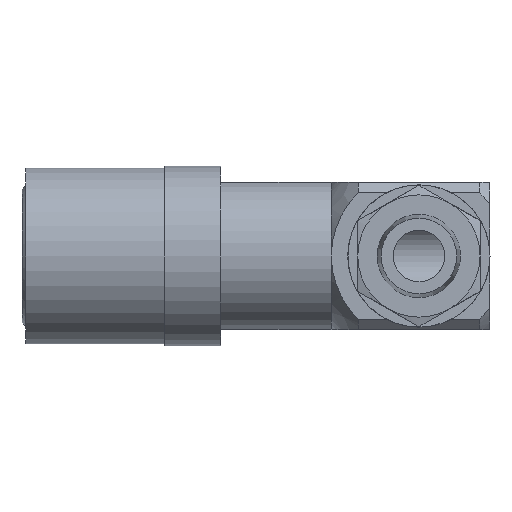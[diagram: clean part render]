
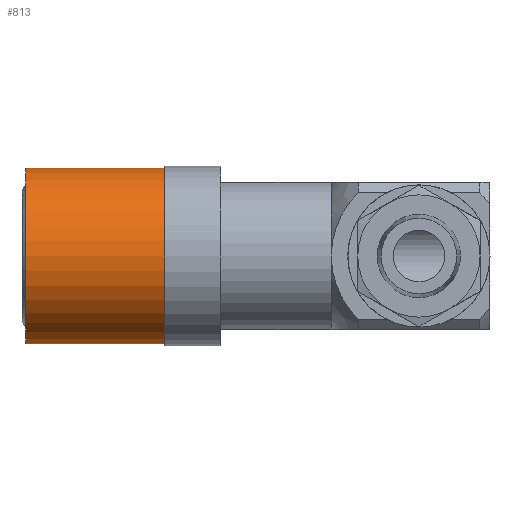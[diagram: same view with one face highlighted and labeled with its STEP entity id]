
A CAD part, front view. The second image highlights one B-rep face of the part: STEP entity #813.
In plain terms, the highlighted cylindrical face has radius 8.5 mm (diameter 17 mm), a full revolution.
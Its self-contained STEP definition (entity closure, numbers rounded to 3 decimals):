
#216=ORIENTED_EDGE('',*,*,#422,.F.);
#217=ORIENTED_EDGE('',*,*,#421,.T.);
#421=EDGE_CURVE('',#518,#518,#596,.T.);
#422=EDGE_CURVE('',#519,#519,#597,.T.);
#518=VERTEX_POINT('',#1410);
#519=VERTEX_POINT('',#1413);
#596=CIRCLE('',#928,8.5);
#597=CIRCLE('',#930,8.5);
#641=EDGE_LOOP('',(#216));
#642=EDGE_LOOP('',(#217));
#725=FACE_BOUND('',#641,.T.);
#726=FACE_BOUND('',#642,.T.);
#790=CYLINDRICAL_SURFACE('',#929,8.5);
#813=ADVANCED_FACE('',(#725,#726),#790,.T.);
#928=AXIS2_PLACEMENT_3D('',#1409,#1126,#1127);
#929=AXIS2_PLACEMENT_3D('',#1411,#1128,#1129);
#930=AXIS2_PLACEMENT_3D('',#1412,#1130,#1131);
#1126=DIRECTION('',(1.,0.,0.));
#1127=DIRECTION('',(0.,0.,-1.));
#1128=DIRECTION('',(1.,0.,0.));
#1129=DIRECTION('',(0.,0.,-1.));
#1130=DIRECTION('',(1.,0.,0.));
#1131=DIRECTION('',(0.,0.,-1.));
#1409=CARTESIAN_POINT('',(0.,0.,0.));
#1410=CARTESIAN_POINT('',(0.,0.,-8.5));
#1411=CARTESIAN_POINT('',(49.053,0.,0.));
#1412=CARTESIAN_POINT('',(13.462,0.,0.));
#1413=CARTESIAN_POINT('',(13.462,0.,-8.5));
